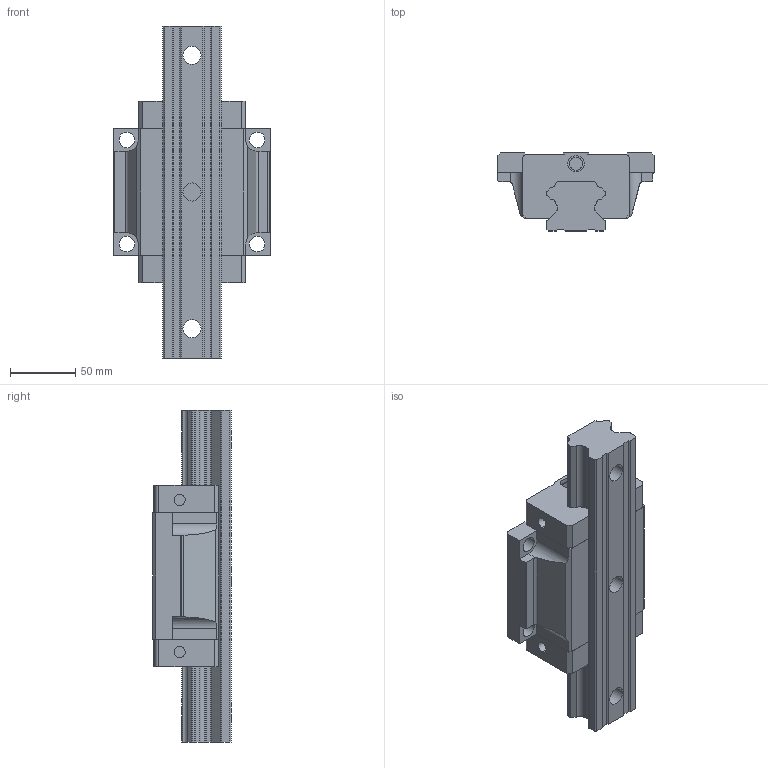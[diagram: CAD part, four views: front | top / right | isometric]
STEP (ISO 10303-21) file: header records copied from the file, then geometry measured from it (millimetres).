
FILE_DESCRIPTION((''),'2;1');
FILE_NAME('HGW45CC_ASM','2008-07-11T',('immo'),(''),'PRO/ENGINEER BY PARAMETRIC TECHNOLOGY CORPORATION, 2004360','PRO/ENGINEER BY PARAMETRIC TECHNOLOGY CORPORATION, 2004360','');
FILE_SCHEMA(('CONFIG_CONTROL_DESIGN'));
Length unit declared in the file: millimetre
Products named in the file (5): HGW45_2; HGR45_2; HGW45_ASM_2_ASM; HG45_EC; HGW45CC_ASM
Assembly tree (5 placements, depth 3):
  HGW45CC_ASM
    HGW45_ASM_2_ASM
      HGW45_2
      HGR45_2
    HG45_EC  x2
Bounding box: 120 x 60 x 255 mm (x, y, z)
Volume: 839904 mm3; surface area: 126920.9 mm2
Topology: 4 solids, 4 shells, 258 faces, 711 edges, 474 vertices
Faces by surface type: plane 152, cylinder 106
Entity records: 6620 total; most frequent: CARTESIAN_POINT 1198, DIRECTION 1113, ORIENTED_EDGE 1110, EDGE_CURVE 555, VECTOR 387, LINE 387, VERTEX_POINT 370, AXIS2_PLACEMENT_3D 363
